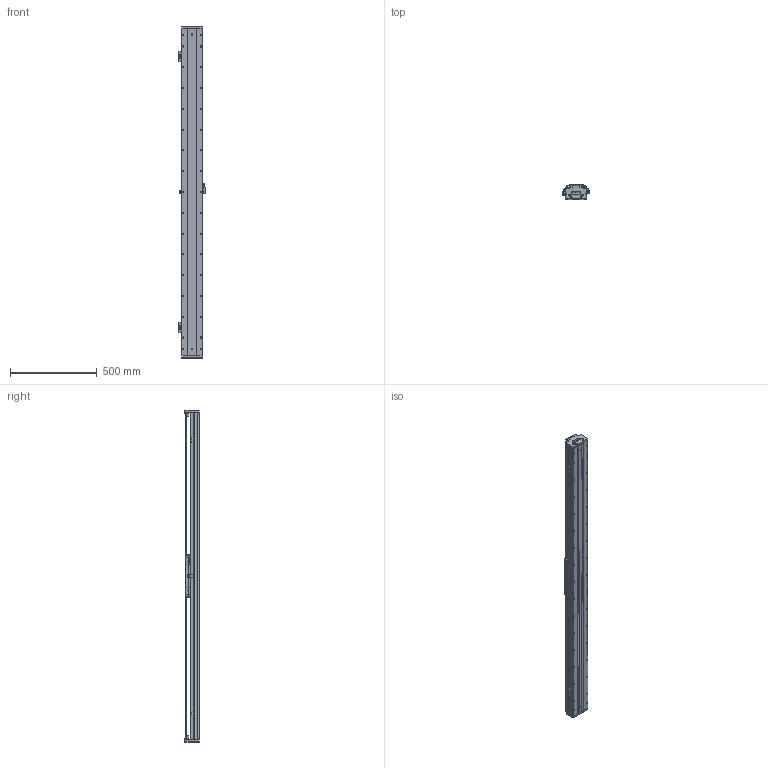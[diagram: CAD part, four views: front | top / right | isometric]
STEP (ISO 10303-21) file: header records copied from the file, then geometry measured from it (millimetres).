
FILE_DESCRIPTION (( 'STEP AP203' ), '1' );
FILE_NAME ('DKW120-B3-W060（T1560-L005-0.2）.STEP', '2021-09-07T00:54:52', ( '微软用户' ), ( '微软中国' ), 'SwSTEP 2.0', 'SolidWorks 2018', '' );
FILE_SCHEMA (( 'CONFIG_CONTROL_DESIGN' ));
Length unit declared in the file: millimetre
Products named in the file (20): EE_SX674A; RUS嫖掑喜; 06652-0001-004-00 DKW120嶺輸菜輸; B3-W060_00; DKW-HXJ-JY-00 遣喳砎蝶; DKW120-B3-W060（T1560-L005-0.2）; 10940-0001-004-00 120詩湍裔啣; Ru2; 砎蝶猾沭; RUS嫖掑郪璃; 12160-0000-003-00 DKW120詩湍嶺輸; DKW119-RU-DTJ-00 RU2黍杅芛盓殤; 12160-0000-004-00  DKW120詩湍揤輸; DKW120-B15-T300-DZ-00 菁釱; 10980-0001-003-00 嫖萇羲壽嘐隅釱; DKW120 单轴模组-拉钢带组件; MSB15-DG-U; DKW-SG-GYP-H-00 嫖萇覜茼え; BKMA01-W060-TRL280; 06652-0001-001-00 DKW120傷啣
Assembly tree (33 placements, depth 3):
  DKW120-B3-W060（T1560-L005-0.2）
    DKW120-B15-T300-DZ-00 菁釱
    MSB15-DG-U  x2
    DKW120 单轴模组-拉钢带组件
      06652-0001-001-00 DKW120傷啣  x2
      06652-0001-004-00 DKW120嶺輸菜輸  x4
      DKW-HXJ-JY-00 遣喳砎蝶  x4
      10940-0001-004-00 120詩湍裔啣
      砎蝶猾沭  x2
      12160-0000-003-00 DKW120詩湍嶺輸  x2
      12160-0000-004-00  DKW120詩湍揤輸  x2
    BKMA01-W060-TRL280
    RUS嫖掑郪璃
      RUS嫖掑喜
      Ru2
    DKW119-RU-DTJ-00 RU2黍杅芛盓殤
    10980-0001-003-00 嫖萇羲壽嘐隅釱  x2
    DKW-SG-GYP-H-00 嫖萇覜茼え
    EE_SX674A  x3
    B3-W060_00
Bounding box: 154.1 x 84 x 1916 mm (x, y, z)
Volume: 6846824 mm3; surface area: 2671372.2 mm2
Topology: 41 solids, 90 shells, 4304 faces, 11856 edges, 7637 vertices
Faces by surface type: plane 2275, cylinder 1434, cone 348, bspline 247
Entity records: 138486 total; most frequent: CARTESIAN_POINT 48089, ORIENTED_EDGE 18789, DIRECTION 17446, EDGE_CURVE 9435, VERTEX_POINT 6200, AXIS2_PLACEMENT_3D 5850, LINE 5746, VECTOR 5746
